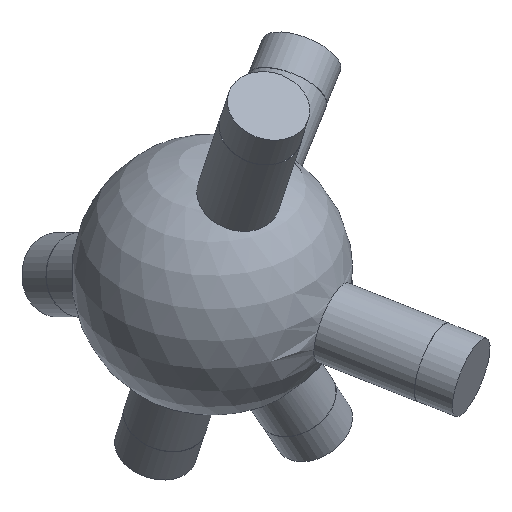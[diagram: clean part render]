
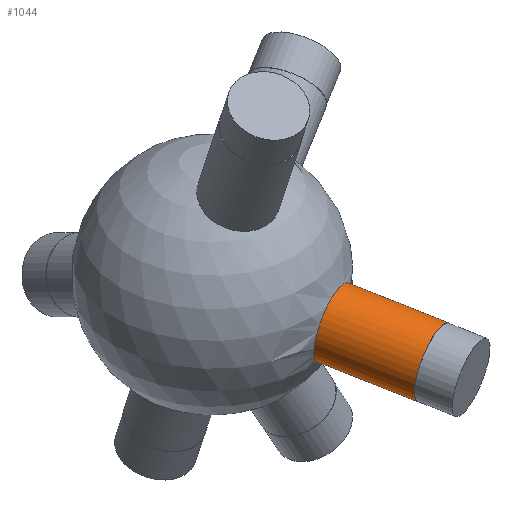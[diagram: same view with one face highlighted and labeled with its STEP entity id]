
A CAD part, isometric view. The second image highlights one B-rep face of the part: STEP entity #1044.
In plain terms, the highlighted cylindrical face has radius 6 mm (diameter 12 mm), a full revolution.
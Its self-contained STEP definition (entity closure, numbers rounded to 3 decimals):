
#33 = SPHERICAL_SURFACE('',#34,20.);
#34 = AXIS2_PLACEMENT_3D('',#35,#36,#37);
#35 = CARTESIAN_POINT('',(0.,0.,0.));
#36 = DIRECTION('',(0.,0.,1.));
#37 = DIRECTION('',(1.,0.,-0.));
#565 = EDGE_CURVE('',#566,#566,#568,.T.);
#566 = VERTEX_POINT('',#567);
#567 = CARTESIAN_POINT('',(0.57,-19.838,
    -2.475));
#568 = SURFACE_CURVE('',#569,(#574,#636),.PCURVE_S1.);
#569 = CIRCLE('',#570,6.);
#570 = AXIS2_PLACEMENT_3D('',#571,#572,#573);
#571 = CARTESIAN_POINT('',(6.235,-17.861,
    -2.475));
#572 = DIRECTION('',(0.327,-0.936,-0.13));
#573 = DIRECTION('',(0.944,0.33,0.));
#574 = PCURVE('',#33,#575);
#575 = DEFINITIONAL_REPRESENTATION('',(#576),#635);
#576 = B_SPLINE_CURVE_WITH_KNOTS('',8,(#577,#578,#579,#580,#581,#582,
    #583,#584,#585,#586,#587,#588,#589,#590,#591,#592,#593,#594,#595,
    #596,#597,#598,#599,#600,#601,#602,#603,#604,#605,#606,#607,#608,
    #609,#610,#611,#612,#613,#614,#615,#616,#617,#618,#619,#620,#621,
    #622,#623,#624,#625,#626,#627,#628,#629,#630,#631,#632,#633,#634),
  .UNSPECIFIED.,.F.,.F.,(9,7,7,7,7,7,7,7,9),(3.142,
    3.927,4.614,5.216,6.268,
    7.057,7.649,8.537,9.425),
  .UNSPECIFIED.);
#577 = CARTESIAN_POINT('',(4.741,-0.124));
#578 = CARTESIAN_POINT('',(4.74,-0.153));
#579 = CARTESIAN_POINT('',(4.742,-0.183));
#580 = CARTESIAN_POINT('',(4.747,-0.212));
#581 = CARTESIAN_POINT('',(4.756,-0.241));
#582 = CARTESIAN_POINT('',(4.767,-0.268));
#583 = CARTESIAN_POINT('',(4.782,-0.295));
#584 = CARTESIAN_POINT('',(4.8,-0.319));
#585 = CARTESIAN_POINT('',(4.84,-0.36));
#586 = CARTESIAN_POINT('',(4.86,-0.377));
#587 = CARTESIAN_POINT('',(4.882,-0.393));
#588 = CARTESIAN_POINT('',(4.907,-0.406));
#589 = CARTESIAN_POINT('',(4.933,-0.417));
#590 = CARTESIAN_POINT('',(4.96,-0.425));
#591 = CARTESIAN_POINT('',(4.988,-0.43));
#592 = CARTESIAN_POINT('',(5.041,-0.436));
#593 = CARTESIAN_POINT('',(5.066,-0.436));
#594 = CARTESIAN_POINT('',(5.091,-0.434));
#595 = CARTESIAN_POINT('',(5.115,-0.43));
#596 = CARTESIAN_POINT('',(5.139,-0.424));
#597 = CARTESIAN_POINT('',(5.163,-0.416));
#598 = CARTESIAN_POINT('',(5.185,-0.406));
#599 = CARTESIAN_POINT('',(5.242,-0.374));
#600 = CARTESIAN_POINT('',(5.275,-0.348));
#601 = CARTESIAN_POINT('',(5.303,-0.318));
#602 = CARTESIAN_POINT('',(5.325,-0.283));
#603 = CARTESIAN_POINT('',(5.341,-0.246));
#604 = CARTESIAN_POINT('',(5.352,-0.208));
#605 = CARTESIAN_POINT('',(5.357,-0.168));
#606 = CARTESIAN_POINT('',(5.355,-0.099));
#607 = CARTESIAN_POINT('',(5.351,-0.07));
#608 = CARTESIAN_POINT('',(5.344,-0.041));
#609 = CARTESIAN_POINT('',(5.334,-0.012));
#610 = CARTESIAN_POINT('',(5.321,0.015));
#611 = CARTESIAN_POINT('',(5.305,0.04));
#612 = CARTESIAN_POINT('',(5.286,0.063));
#613 = CARTESIAN_POINT('',(5.25,0.1));
#614 = CARTESIAN_POINT('',(5.233,0.115));
#615 = CARTESIAN_POINT('',(5.214,0.128));
#616 = CARTESIAN_POINT('',(5.195,0.139));
#617 = CARTESIAN_POINT('',(5.175,0.149));
#618 = CARTESIAN_POINT('',(5.154,0.157));
#619 = CARTESIAN_POINT('',(5.132,0.164));
#620 = CARTESIAN_POINT('',(5.077,0.175));
#621 = CARTESIAN_POINT('',(5.043,0.178));
#622 = CARTESIAN_POINT('',(5.009,0.176));
#623 = CARTESIAN_POINT('',(4.975,0.17));
#624 = CARTESIAN_POINT('',(4.942,0.16));
#625 = CARTESIAN_POINT('',(4.911,0.146));
#626 = CARTESIAN_POINT('',(4.883,0.128));
#627 = CARTESIAN_POINT('',(4.831,0.086));
#628 = CARTESIAN_POINT('',(4.807,0.062));
#629 = CARTESIAN_POINT('',(4.787,0.035));
#630 = CARTESIAN_POINT('',(4.77,0.006));
#631 = CARTESIAN_POINT('',(4.757,-0.025));
#632 = CARTESIAN_POINT('',(4.748,-0.058));
#633 = CARTESIAN_POINT('',(4.742,-0.091));
#634 = CARTESIAN_POINT('',(4.741,-0.124));
#635 = ( GEOMETRIC_REPRESENTATION_CONTEXT(2) 
PARAMETRIC_REPRESENTATION_CONTEXT() REPRESENTATION_CONTEXT('2D SPACE',''
  ) );
#636 = PCURVE('',#637,#642);
#637 = CYLINDRICAL_SURFACE('',#638,6.);
#638 = AXIS2_PLACEMENT_3D('',#639,#640,#641);
#639 = CARTESIAN_POINT('',(0.,0.,0.));
#640 = DIRECTION('',(0.327,-0.936,-0.13));
#641 = DIRECTION('',(-0.944,-0.33,0.
    ));
#642 = DEFINITIONAL_REPRESENTATION('',(#643),#647);
#643 = LINE('',#644,#645);
#644 = CARTESIAN_POINT('',(-3.142,19.079));
#645 = VECTOR('',#646,1.);
#646 = DIRECTION('',(1.,0.));
#647 = ( GEOMETRIC_REPRESENTATION_CONTEXT(2) 
PARAMETRIC_REPRESENTATION_CONTEXT() REPRESENTATION_CONTEXT('2D SPACE',''
  ) );
#1044 = ADVANCED_FACE('',(#1045),#637,.T.);
#1045 = FACE_BOUND('',#1046,.T.);
#1046 = EDGE_LOOP('',(#1047,#1070,#1097,#1098));
#1047 = ORIENTED_EDGE('',*,*,#1048,.T.);
#1048 = EDGE_CURVE('',#566,#1049,#1051,.T.);
#1049 = VERTEX_POINT('',#1050);
#1050 = CARTESIAN_POINT('',(5.768,-34.726,
    -4.538));
#1051 = SEAM_CURVE('',#1052,(#1056,#1063),.PCURVE_S1.);
#1052 = LINE('',#1053,#1054);
#1053 = CARTESIAN_POINT('',(-5.665,-1.978,
    0.));
#1054 = VECTOR('',#1055,1.);
#1055 = DIRECTION('',(0.327,-0.936,-0.13));
#1056 = PCURVE('',#637,#1057);
#1057 = DEFINITIONAL_REPRESENTATION('',(#1058),#1062);
#1058 = LINE('',#1059,#1060);
#1059 = CARTESIAN_POINT('',(6.283,-0.));
#1060 = VECTOR('',#1061,1.);
#1061 = DIRECTION('',(0.,1.));
#1062 = ( GEOMETRIC_REPRESENTATION_CONTEXT(2) 
PARAMETRIC_REPRESENTATION_CONTEXT() REPRESENTATION_CONTEXT('2D SPACE',''
  ) );
#1063 = PCURVE('',#637,#1064);
#1064 = DEFINITIONAL_REPRESENTATION('',(#1065),#1069);
#1065 = LINE('',#1066,#1067);
#1066 = CARTESIAN_POINT('',(0.,-0.));
#1067 = VECTOR('',#1068,1.);
#1068 = DIRECTION('',(0.,1.));
#1069 = ( GEOMETRIC_REPRESENTATION_CONTEXT(2) 
PARAMETRIC_REPRESENTATION_CONTEXT() REPRESENTATION_CONTEXT('2D SPACE',''
  ) );
#1070 = ORIENTED_EDGE('',*,*,#1071,.F.);
#1071 = EDGE_CURVE('',#1049,#1049,#1072,.T.);
#1072 = SURFACE_CURVE('',#1073,(#1078,#1085),.PCURVE_S1.);
#1073 = CIRCLE('',#1074,6.);
#1074 = AXIS2_PLACEMENT_3D('',#1075,#1076,#1077);
#1075 = CARTESIAN_POINT('',(11.433,-32.749,
    -4.538));
#1076 = DIRECTION('',(0.327,-0.936,-0.13));
#1077 = DIRECTION('',(-0.944,-0.33,
    0.));
#1078 = PCURVE('',#637,#1079);
#1079 = DEFINITIONAL_REPRESENTATION('',(#1080),#1084);
#1080 = LINE('',#1081,#1082);
#1081 = CARTESIAN_POINT('',(0.,34.982));
#1082 = VECTOR('',#1083,1.);
#1083 = DIRECTION('',(1.,0.));
#1084 = ( GEOMETRIC_REPRESENTATION_CONTEXT(2) 
PARAMETRIC_REPRESENTATION_CONTEXT() REPRESENTATION_CONTEXT('2D SPACE',''
  ) );
#1085 = PCURVE('',#1086,#1091);
#1086 = PLANE('',#1087);
#1087 = AXIS2_PLACEMENT_3D('',#1088,#1089,#1090);
#1088 = CARTESIAN_POINT('',(11.433,-32.749,
    -4.538));
#1089 = DIRECTION('',(0.327,-0.936,-0.13));
#1090 = DIRECTION('',(-0.944,-0.33,
    0.));
#1091 = DEFINITIONAL_REPRESENTATION('',(#1092),#1096);
#1092 = CIRCLE('',#1093,6.);
#1093 = AXIS2_PLACEMENT_2D('',#1094,#1095);
#1094 = CARTESIAN_POINT('',(0.,0.));
#1095 = DIRECTION('',(1.,0.));
#1096 = ( GEOMETRIC_REPRESENTATION_CONTEXT(2) 
PARAMETRIC_REPRESENTATION_CONTEXT() REPRESENTATION_CONTEXT('2D SPACE',''
  ) );
#1097 = ORIENTED_EDGE('',*,*,#1048,.F.);
#1098 = ORIENTED_EDGE('',*,*,#565,.T.);
